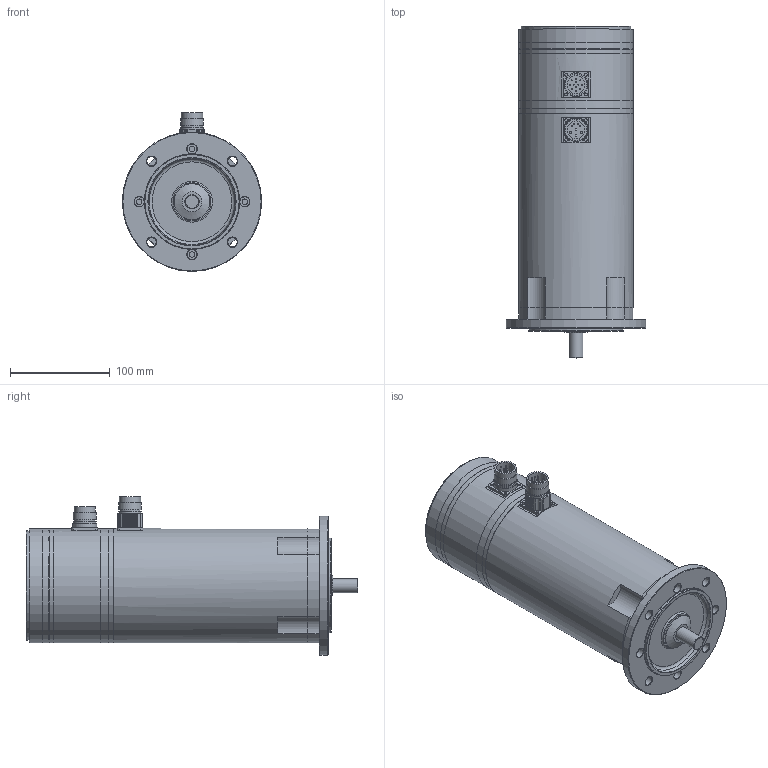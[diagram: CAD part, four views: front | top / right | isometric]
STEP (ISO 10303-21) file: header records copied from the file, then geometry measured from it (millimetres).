
FILE_DESCRIPTION(/* description */ (''),/* implementation_level */ '2;1');
FILE_NAME(/* name */ 'ksa_4x12e_mc_ixx',/* time_stamp */ '2007-03-13T15:00:04+01:00',/* author */ (''),/* organization */ (''),/* preprocessor_version */ 'ST-DEVELOPER v8',/* originating_system */ 'UNIGRAPHICS SOLUTIONS - UNIGRAPHICS 18.0',/* authorisation */ '');
FILE_SCHEMA (('AUTOMOTIVE_DESIGN { 1 2 10303 214 0 1 1 1 }'));
Length unit declared in the file: millimetre
Products named in the file (13): 06331201_0; DIN3760_org_A15x30x7_0; 014261_0; 014260_0; 064256_0; 089257_0; 064257_0; 089258_0; 114113_0; Gehaeuse SA 4 E_0; Rotor-SA 4 E_0; 114108_0; KSA444_E-MC-I27_0
Assembly tree (12 placements, depth 2):
  KSA444_E-MC-I27_0
    114108_0
    Rotor-SA 4 E_0
    Gehaeuse SA 4 E_0
    114113_0
    089258_0
    064257_0
    089257_0
    064256_0
    014260_0
    014261_0
    DIN3760_org_A15x30x7_0
    06331201_0
Bounding box: 140 x 333.5 x 159.5 mm (x, y, z)
Volume: 2124357.4 mm3; surface area: 388360.3 mm2
Topology: 12 solids, 12 shells, 548 faces, 1331 edges, 854 vertices
Faces by surface type: cylinder 258, plane 128, cone 112, torus 25, sphere 20, bspline 5
Full cylindrical faces by diameter (mm): 1 x16, 2 x4, 2.135 x4, 2.7 x8, 3.013 x12, 3.3 x4, 3.432 x13, 4.5 x20, 5.5 x4, 6 x1, 6.5 x4, 8 x20, 9.5 x4, 10 x4, 13.52 x1, 13.9 x1, 14 x1, 15 x2, 15.3 x2, 16 x1, 18 x2, 20 x4, 21 x2, 21.5 x2, 23 x5, 24 x2, 27 x1, 28 x1, 30 x4, 35 x2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
Entity records: 13930 total; most frequent: DIRECTION 2592, CARTESIAN_POINT 2328, ORIENTED_EDGE 1630, AXIS2_PLACEMENT_3D 1234, EDGE_LOOP 1085, EDGE_CURVE 815, FACE_BOUND 756, VERTEX_POINT 710
